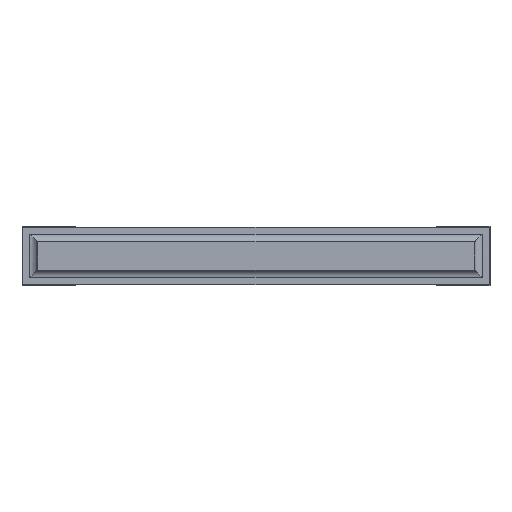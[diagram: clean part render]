
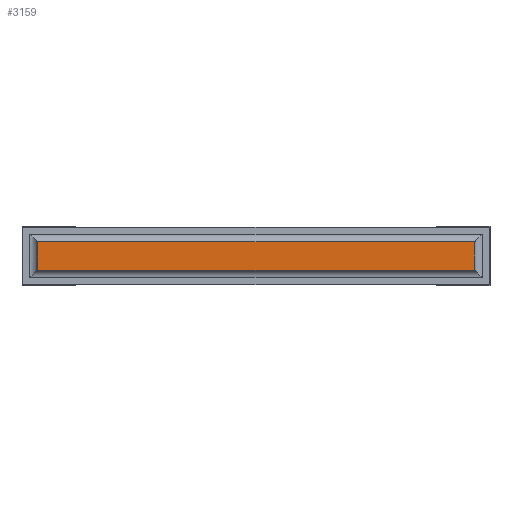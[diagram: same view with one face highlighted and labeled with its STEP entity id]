
A CAD part, front view. The second image highlights one B-rep face of the part: STEP entity #3159.
In plain terms, the highlighted planar face has unit normal (0, -1, 0).
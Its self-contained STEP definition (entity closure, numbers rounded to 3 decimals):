
#133=FACE_OUTER_BOUND('',#330,.T.);
#330=EDGE_LOOP('',(#2127,#2128,#2129,#2130));
#529=LINE('',#4507,#941);
#535=LINE('',#4524,#947);
#545=LINE('',#4546,#957);
#546=LINE('',#4548,#958);
#941=VECTOR('',#3619,10.);
#947=VECTOR('',#3637,10.);
#957=VECTOR('',#3657,10.);
#958=VECTOR('',#3660,10.);
#1353=VERTEX_POINT('',#4504);
#1354=VERTEX_POINT('',#4506);
#1359=VERTEX_POINT('',#4522);
#1366=VERTEX_POINT('',#4544);
#1641=EDGE_CURVE('',#1354,#1353,#529,.T.);
#1650=EDGE_CURVE('',#1359,#1353,#535,.T.);
#1661=EDGE_CURVE('',#1366,#1359,#545,.T.);
#1662=EDGE_CURVE('',#1354,#1366,#546,.T.);
#2127=ORIENTED_EDGE('',*,*,#1650,.F.);
#2128=ORIENTED_EDGE('',*,*,#1661,.F.);
#2129=ORIENTED_EDGE('',*,*,#1662,.F.);
#2130=ORIENTED_EDGE('',*,*,#1641,.T.);
#2999=PLANE('',#3389);
#3159=ADVANCED_FACE('',(#133),#2999,.T.);
#3389=AXIS2_PLACEMENT_3D('',#4547,#3658,#3659);
#3619=DIRECTION('',(0.,0.,-1.));
#3637=DIRECTION('',(-1.,0.,0.));
#3657=DIRECTION('',(0.,0.,-1.));
#3658=DIRECTION('center_axis',(0.,-1.,0.));
#3659=DIRECTION('ref_axis',(0.,0.,-1.));
#3660=DIRECTION('',(1.,0.,0.));
#4504=CARTESIAN_POINT('',(0.1,0.,0.1));
#4506=CARTESIAN_POINT('',(0.1,0.,0.28));
#4507=CARTESIAN_POINT('',(0.1,0.,0.28));
#4522=CARTESIAN_POINT('',(2.9,0.,0.1));
#4524=CARTESIAN_POINT('',(2.9,0.,0.1));
#4544=CARTESIAN_POINT('',(2.9,0.,0.28));
#4546=CARTESIAN_POINT('',(2.9,0.,0.28));
#4547=CARTESIAN_POINT('Origin',(2.9,0.,0.19));
#4548=CARTESIAN_POINT('',(0.1,0.,0.28));
